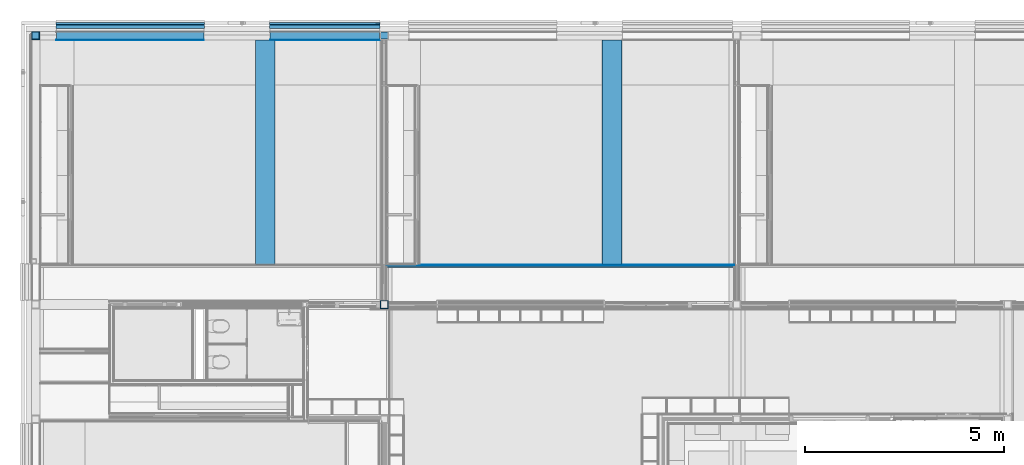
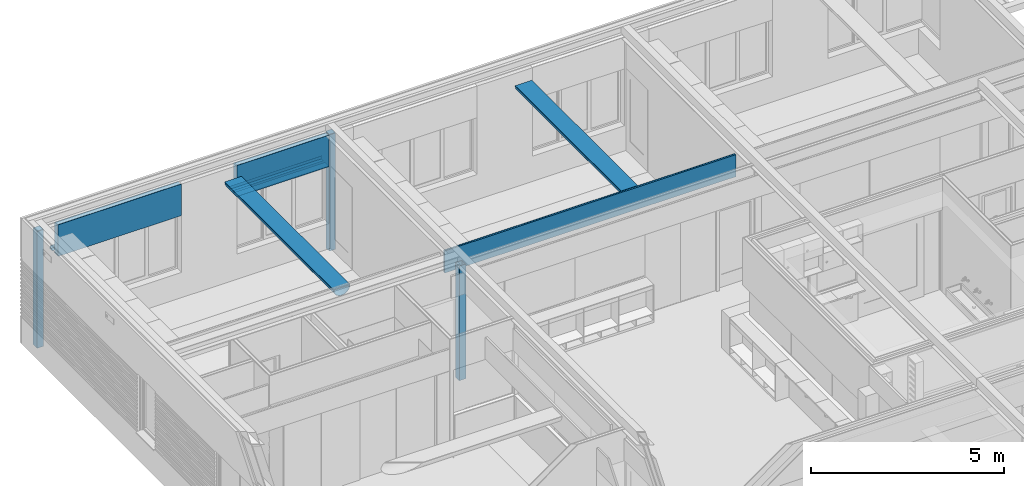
# One storey, part 81 of 137: 20 building element parts, 10 elements without a shape of their own.
"""IFC2X3 building model written with IfcOpenShell, lengths in millimetres."""

from ifc_helpers import new_model, entity, si_unit, converted_unit, derived_unit, money_unit, direction, frame, origin_with_axes, place, context, subcontext, project, spatial, faceted_brep, material, type_object, element, aggregate, save


model = new_model("IFC2X3")

# Units and contexts
model_context = context("Model", 3, precision=0.01, world=origin_with_axes(), true_north=direction((0.0, 1.0)))
body_context = subcontext(model_context, "Body", "Model", "MODEL_VIEW")
ifc_project = project(units=[si_unit("LENGTHUNIT", "METRE", prefix="MILLI"), si_unit("AREAUNIT", "SQUARE_METRE"), si_unit("VOLUMEUNIT", "CUBIC_METRE"), converted_unit("PLANEANGLEUNIT", "DEGREE", entity("IfcPlaneAngleMeasure", 0.0174532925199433), si_unit("PLANEANGLEUNIT", "RADIAN"), dimensions=[0, 0, 0, 0, 0, 0, 0]), money_unit("EUR"), converted_unit("TIMEUNIT", "Year", entity("IfcTimeMeasure", 31556926.0), si_unit("TIMEUNIT", "SECOND"), dimensions=[0, 0, 1, 0, 0, 0, 0]), si_unit("MASSUNIT", "GRAM", prefix="KILO"), si_unit("THERMODYNAMICTEMPERATUREUNIT", "DEGREE_CELSIUS"), si_unit("LUMINOUSINTENSITYUNIT", "LUMEN"), si_unit("ENERGYUNIT", "JOULE", prefix="MEGA"), derived_unit("THERMALCONDUCTANCEUNIT", [(si_unit("POWERUNIT", "WATT"), 1), (si_unit("LENGTHUNIT", "METRE"), -1), (si_unit("THERMODYNAMICTEMPERATUREUNIT", "KELVIN"), -1)]), derived_unit("SPECIFICHEATCAPACITYUNIT", [(si_unit("ENERGYUNIT", "JOULE"), 1), (si_unit("MASSUNIT", "GRAM", prefix="KILO"), -1), (si_unit("THERMODYNAMICTEMPERATUREUNIT", "KELVIN"), -1)]), derived_unit("MASSDENSITYUNIT", [(si_unit("MASSUNIT", "GRAM", prefix="KILO"), 1), (si_unit("VOLUMEUNIT", "CUBIC_METRE"), -1)])], contexts=[model_context])

# Site, building, storey
site_placement = place(None, origin_with_axes())
site = spatial("IfcSite", under=ifc_project, at=site_placement, Name="Site", CompositionType="ELEMENT")
building_placement = place(site_placement, origin_with_axes())
building = spatial("IfcBuilding", under=site, at=building_placement, Name="Naam gebouw", CompositionType="ELEMENT")
storey_placement = place(building_placement, frame((0.0, 0.0, 3960.0), z_axis=(0.0, 0.0, 1.0), x_axis=(1.0, 0.0, 0.0)))
storey = spatial("IfcBuildingStorey", under=building, at=storey_placement, Name="1e verdieping", CompositionType="ELEMENT", Elevation=3960.0)

# Column, building element part
column_type = type_object("IfcColumnType", Name="200X200X10 200 x 200", PredefinedType="COLUMN")
column_1_placement = place(storey_placement, frame((8850.000000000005, 22324.99984707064, -100.0000000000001), z_axis=(0.0, 0.0, 1.0), x_axis=(1.0, 0.0, 0.0)))
column_1 = element("IfcColumn", 1, at=column_1_placement, inside=storey, type_object=column_type, Name="28_Kolom-x", ObjectType="COLUMN")
ifc_material_1 = material(Name="Metaal - Staal C")
building_element_part_1_placement = place(column_1_placement, origin_with_axes())
building_element_part_1 = element("IfcBuildingElementPart", 2, at=building_element_part_1_placement, material=ifc_material_1, Name="Metaal - Staal C", context=body_context, shape_type="Brep", body=[
    faceted_brep([(-99.99999999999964, -100.0000000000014, 0.0), (99.99999999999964, -100.0000000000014, 0.0), (99.99999999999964, -100.0000000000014, 3630.0), (-99.99999999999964, -100.0000000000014, 3630.0), (-99.99999999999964, 100.0000000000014, 0.0), (99.99999999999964, 100.0000000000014, 0.0), (-89.99999999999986, -89.99999999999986, 0.0), (89.99999999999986, -89.99999999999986, 0.0), (89.99999999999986, 89.99999999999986, 0.0), (-89.99999999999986, 89.99999999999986, 0.0), (99.99999999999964, 100.0000000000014, 3630.0), (-99.99999999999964, 100.0000000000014, 3630.0), (-89.99999999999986, -89.99999999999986, 3630.0), (-89.99999999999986, 89.99999999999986, 3630.0), (89.99999999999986, 89.99999999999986, 3630.0), (89.99999999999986, -89.99999999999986, 3630.0)], [[[0, 1, 2, 3]], [[0, 4, 5, 1], [6, 7, 8, 9]], [[1, 5, 10, 2]], [[3, 2, 10, 11], [12, 13, 14, 15]], [[4, 0, 3, 11]], [[5, 4, 11, 10]], [[7, 6, 12, 15]], [[8, 7, 15, 14]], [[9, 8, 14, 13]], [[6, 9, 13, 12]]]),
])
aggregate(column_1, [building_element_part_1])

column_2_placement = place(storey_placement, frame((100.0000000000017, 29075.0, -100.0000000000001), z_axis=(0.0, 0.0, 1.0), x_axis=(1.0, 0.0, 0.0)))
column_2 = element("IfcColumn", 3, at=column_2_placement, inside=storey, type_object=column_type, Name="28_Kolom-x", ObjectType="COLUMN")
building_element_part_2_placement = place(column_2_placement, origin_with_axes())
building_element_part_2 = element("IfcBuildingElementPart", 4, at=building_element_part_2_placement, material=ifc_material_1, Name="Metaal - Staal C", context=body_context, shape_type="Brep", body=[
    faceted_brep([(-100.0, -100.0000000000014, 0.0), (100.0, -100.0000000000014, 0.0), (100.0, -100.0000000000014, 3699.999999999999), (-100.0, -100.0000000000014, 3699.999999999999), (-100.0, 100.0000000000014, 0.0), (100.0, 100.0000000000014, 0.0), (-90.00000000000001, -89.99999999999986, 0.0), (90.00000000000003, -89.99999999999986, 0.0), (90.00000000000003, 89.99999999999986, 0.0), (-90.00000000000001, 89.99999999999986, 0.0), (100.0, 100.0000000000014, 3699.999999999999), (-100.0, 100.0000000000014, 3699.999999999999), (-90.00000000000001, -89.99999999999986, 3699.999999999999), (-90.00000000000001, 89.99999999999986, 3699.999999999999), (90.00000000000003, 89.99999999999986, 3699.999999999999), (90.00000000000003, -89.99999999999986, 3699.999999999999)], [[[0, 1, 2, 3]], [[0, 4, 5, 1], [6, 7, 8, 9]], [[1, 5, 10, 2]], [[3, 2, 10, 11], [12, 13, 14, 15]], [[4, 0, 3, 11]], [[5, 4, 11, 10]], [[7, 6, 12, 15]], [[8, 7, 15, 14]], [[9, 8, 14, 13]], [[6, 9, 13, 12]]]),
])

column_3_placement = place(storey_placement, frame((8850.000000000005, 29075.0, -100.0000000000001), z_axis=(0.0, 0.0, 1.0), x_axis=(1.0, 0.0, 0.0)))
column_3 = element("IfcColumn", 5, at=column_3_placement, inside=storey, type_object=column_type, Name="28_Kolom-x", ObjectType="COLUMN")
ifc_material_2 = material(Name="Beton gewapend C")
building_element_part_3_placement = place(column_3_placement, origin_with_axes())
building_element_part_3 = element("IfcBuildingElementPart", 6, at=building_element_part_3_placement, material=ifc_material_2, Name="Beton gewapend C", context=body_context, shape_type="Brep", body=[
    faceted_brep([(-89.99999999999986, 89.99999999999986, 3683.000002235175), (89.99999999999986, 89.99999999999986, 3683.000002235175), (89.99999999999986, 89.99999999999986, 0.0), (-89.99999999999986, 89.99999999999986, 0.0), (89.99999999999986, -89.99999999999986, 3683.000002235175), (-89.99999999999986, -89.99999999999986, 3683.000002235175), (89.99999999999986, -89.99999999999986, 0.0), (-89.99999999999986, -89.99999999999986, 0.0)], [[[0, 1, 2, 3]], [[4, 1, 0, 5]], [[1, 4, 6, 2]], [[2, 6, 7, 3]], [[5, 0, 3, 7]], [[4, 5, 7, 6]]]),
    faceted_brep([(89.99999999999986, -89.99999999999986, 3695.000002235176), (89.99999999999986, 89.99999999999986, 3695.000002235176), (89.99999999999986, 89.99999999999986, 3699.999999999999), (89.99999999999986, -89.99999999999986, 3699.999999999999), (-89.99999999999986, 89.99999999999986, 3695.000002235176), (-89.99999999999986, -89.99999999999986, 3695.000002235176), (-89.99999999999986, 89.99999999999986, 3699.999999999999), (-89.99999999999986, -89.99999999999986, 3699.999999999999)], [[[0, 1, 2, 3]], [[4, 1, 0, 5]], [[1, 4, 6, 2]], [[2, 6, 7, 3]], [[5, 0, 3, 7]], [[4, 5, 7, 6]]]),
])
aggregate(column_3, [building_element_part_3])

# Building element part
building_element_part_4_placement = place(column_2_placement, origin_with_axes())
building_element_part_4 = element("IfcBuildingElementPart", 7, at=building_element_part_4_placement, material=ifc_material_2, Name="Beton gewapend C", context=body_context, shape_type="Brep", body=[
    faceted_brep([(-90.00000000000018, 89.99999999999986, 3685.000001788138), (89.99999999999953, 89.99999999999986, 3685.000001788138), (89.99999999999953, 89.99999999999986, 0.0), (-90.00000000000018, 89.99999999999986, 0.0), (89.99999999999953, -89.99999999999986, 3685.000001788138), (-90.00000000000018, -89.99999999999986, 3685.000001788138), (89.99999999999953, -89.99999999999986, 0.0), (-90.00000000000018, -89.99999999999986, 0.0)], [[[0, 1, 2, 3]], [[4, 1, 0, 5]], [[1, 4, 6, 2]], [[2, 6, 7, 3]], [[5, 0, 3, 7]], [[4, 5, 7, 6]]]),
    faceted_brep([(89.99999999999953, -89.99999999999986, 3695.000001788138), (89.99999999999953, 89.99999999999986, 3695.000001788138), (89.99999999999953, 89.99999999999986, 3699.999999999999), (89.99999999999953, -89.99999999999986, 3699.999999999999), (-90.00000000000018, 89.99999999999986, 3695.000001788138), (-90.00000000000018, -89.99999999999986, 3695.000001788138), (-90.00000000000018, 89.99999999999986, 3699.999999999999), (-90.00000000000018, -89.99999999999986, 3699.999999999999)], [[[0, 1, 2, 3]], [[4, 1, 0, 5]], [[1, 4, 6, 2]], [[2, 6, 7, 3]], [[5, 0, 3, 7]], [[4, 5, 7, 6]]]),
])

aggregate(column_2, [building_element_part_2, building_element_part_4])

# Beam, building element part
beam_type_1 = type_object("IfcBeamType", Name="41 Latei/geveldrager 158 x 112", PredefinedType="BEAM")
beam_1_placement = place(storey_placement, frame((4334.99999999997, 29355.00002672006, 2610.0), z_axis=(0.0, 0.0, 1.0), x_axis=(0.0, 1.0, 0.0)))
beam_1 = element("IfcBeam", 8, at=beam_1_placement, inside=storey, type_object=beam_type_1, Name="_Regenwaterafvoer-x", ObjectType="BEAM")
building_element_part_5_placement = place(beam_1_placement, origin_with_axes())
building_element_part_5 = element("IfcBuildingElementPart", 9, at=building_element_part_5_placement, material=ifc_material_1, Name="Metaal - Staal C", context=body_context, shape_type="Brep", body=[
    faceted_brep([(5.9603877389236e-08, 3720.0, 6.55651533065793e-07), (5.9603877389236e-08, 3720.0, 99.3417707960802), (5.9603877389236e-08, 0.0, 99.3417707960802), (5.9603877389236e-08, 0.0, 6.55651533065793e-07), (50.00000000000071, 3720.0, 6.55651533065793e-07), (50.00000000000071, 3720.0, -3.000000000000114), (-3.000000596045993, 3720.0, -3.000000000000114), (-3.000000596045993, 3720.0, 6.55651533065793e-07), (-3.000000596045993, 3720.0, 96.99999988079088), (-18.04655007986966, 3720.0, 106.2968498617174), (-16.54654975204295, 3720.0, 108.8949262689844), (-16.54654975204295, 0.0, 108.8949262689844), (-18.04655007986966, 0.0, 106.2968498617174), (-3.000000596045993, 0.0, 96.99999988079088), (-3.000000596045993, 0.0, 6.55651533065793e-07), (-3.000000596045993, 0.0, -3.000000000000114), (50.00000000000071, 0.0, -3.000000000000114), (50.00000000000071, 0.0, 6.55651533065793e-07)], [[[0, 1, 2, 3]], [[0, 4, 5, 6, 7, 8, 9, 10, 1]], [[1, 10, 11, 2]], [[3, 2, 11, 12, 13, 14, 15, 16, 17]], [[4, 0, 3, 17]], [[5, 4, 17, 16]], [[6, 5, 16, 15]], [[7, 6, 15, 14]], [[8, 7, 14, 13]], [[9, 8, 13, 12]], [[10, 9, 12, 11]]]),
])

beam_2_placement = place(storey_placement, frame((5975.000000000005, 29354.99997630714, 2610.0), z_axis=(0.0, 0.0, 1.0), x_axis=(0.001263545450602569, -0.9999992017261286, 0.0)))
beam_2 = element("IfcBeam", 10, at=beam_2_placement, inside=storey, type_object=beam_type_1, Name="_Regenwaterafvoer-x", ObjectType="BEAM")
building_element_part_6_placement = place(beam_2_placement, origin_with_axes())
building_element_part_6 = element("IfcBuildingElementPart", 11, at=building_element_part_6_placement, material=ifc_material_1, Name="Metaal - Staal C", context=body_context, shape_type="Brep", body=[
    faceted_brep([(-49.99999999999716, 2770.00221178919, 6.55651533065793e-07), (-49.99999999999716, 2770.00221178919, -3.000000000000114), (-50.00000000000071, 0.0, -3.000000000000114), (-50.00000000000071, 0.0, 6.55651533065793e-07), (-5.9603877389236e-08, 2770.00221178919, 6.55651533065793e-07), (-5.9603877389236e-08, 2770.00221178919, 99.3417707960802), (16.54654975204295, 2770.00221178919, 108.8949262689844), (18.04655007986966, 2770.002211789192, 106.2968498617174), (3.000000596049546, 2770.00221178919, 96.99999988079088), (3.000000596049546, 2770.00221178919, 6.55651533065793e-07), (3.000000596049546, 2770.00221178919, -3.000000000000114), (3.000000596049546, 0.0, -3.000000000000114), (3.000000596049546, 0.0, 6.55651533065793e-07), (3.000000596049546, 0.0, 96.99999988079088), (18.04655007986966, 0.0, 106.2968498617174), (16.54654975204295, 0.0, 108.8949262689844), (-5.9603877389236e-08, 0.0, 99.3417707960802), (-5.9603877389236e-08, 0.0, 6.55651533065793e-07)], [[[0, 1, 2, 3]], [[0, 4, 5, 6, 7, 8, 9, 10, 1]], [[1, 10, 11, 2]], [[3, 2, 11, 12, 13, 14, 15, 16, 17]], [[4, 0, 3, 17]], [[5, 4, 17, 16]], [[6, 5, 16, 15]], [[7, 6, 15, 14]], [[8, 7, 14, 13]], [[9, 8, 13, 12]], [[10, 9, 12, 11]]]),
])

# Building element part
building_element_part_7_placement = place(beam_1_placement, origin_with_axes())
building_element_part_7 = element("IfcBuildingElementPart", 12, at=building_element_part_7_placement, material=ifc_material_1, Name="Metaal - Staal C", context=body_context, shape_type="Brep", body=[
    faceted_brep([(-3.000000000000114, 3720.0, 0.0), (-108.0000000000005, 3720.0, 0.0), (-108.0000000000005, 0.0, 0.0), (-3.000000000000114, 0.0, 0.0), (-3.000000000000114, 3720.0, -3.000000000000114), (-108.0000000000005, 3720.0, -3.000000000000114), (-108.0000000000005, 0.0, -3.000000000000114), (-3.000000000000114, 0.0, -3.000000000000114)], [[[0, 1, 2, 3]], [[0, 4, 5, 1]], [[1, 5, 6, 2]], [[3, 2, 6, 7]], [[4, 0, 3, 7]], [[5, 4, 7, 6]]]),
])

aggregate(beam_1, [building_element_part_5, building_element_part_7])

building_element_part_8_placement = place(beam_2_placement, origin_with_axes())
building_element_part_8 = element("IfcBuildingElementPart", 13, at=building_element_part_8_placement, material=ifc_material_1, Name="Metaal - Staal C", context=body_context, shape_type="Brep", body=[
    faceted_brep([(3.000000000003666, 2770.00221178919, -3.000000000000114), (108.0000000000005, 2770.00221178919, -3.000000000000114), (108.0000000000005, 0.0, -3.000000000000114), (3.000000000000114, 0.0, -3.000000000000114), (3.000000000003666, 2770.00221178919, 0.0), (108.0000000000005, 2770.00221178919, 0.0), (108.0000000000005, 0.0, 0.0), (3.000000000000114, 0.0, 0.0)], [[[0, 1, 2, 3]], [[0, 4, 5, 1]], [[1, 5, 6, 2]], [[3, 2, 6, 7]], [[4, 0, 3, 7]], [[5, 4, 7, 6]]]),
])

aggregate(beam_2, [building_element_part_6, building_element_part_8])

# Proxy, building element parts
building_element_proxy_type = type_object("IfcBuildingElementProxyType", Name="22 Metal stud 62.5 plafond 63", PredefinedType="NOTDEFINED")
proxy_placement = place(storey_placement, frame((8912.500000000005, 23324.99974115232, 2624.999999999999), z_axis=(0.0, 0.0, 1.0), x_axis=(1.0, 0.0, 0.0)))
proxy = element("IfcBuildingElementProxy", 14, at=proxy_placement, inside=storey, type_object=building_element_proxy_type, Name="_Wand-x")
ifc_material_3 = material(Name="Gipsplaat")
building_element_part_9_placement = place(proxy_placement, origin_with_axes())
building_element_part_9 = element("IfcBuildingElementPart", 15, at=building_element_part_9_placement, material=ifc_material_3, Name="Gipsplaat", context=body_context, shape_type="Brep", body=[
    faceted_brep([(8724.999424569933, -12.49999999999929, 700.0000000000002), (8724.999424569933, 0.0, 700.0000000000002), (0.0, 0.0, 700.0000000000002), (0.0, -12.49999999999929, 700.0000000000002), (8724.999424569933, -12.49999999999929, 0.0), (8724.999424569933, 0.0, 0.0), (0.0, 0.0, 0.0), (0.0, -12.49999999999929, 0.0)], [[[0, 1, 2, 3]], [[0, 4, 5, 1]], [[1, 5, 6, 2]], [[3, 2, 6, 7]], [[4, 0, 3, 7]], [[5, 4, 7, 6]]]),
])
ifc_material_4 = material(Name="ALG - LICHTE SCHEIDINGSWAND")
building_element_part_10_placement = place(proxy_placement, origin_with_axes())
building_element_part_10 = element("IfcBuildingElementPart", 16, at=building_element_part_10_placement, material=ifc_material_4, Name="ALG - LICHTE SCHEIDINGSWAND", context=body_context, shape_type="Brep", body=[
    faceted_brep([(8724.999424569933, -62.5, 700.0000000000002), (8724.999424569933, -12.49999999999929, 700.0000000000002), (0.0, -12.49999999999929, 700.0000000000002), (0.0, -62.5, 700.0000000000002), (8724.999424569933, -62.5, 0.0), (8724.999424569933, -12.49999999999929, 0.0), (0.0, -12.49999999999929, 0.0), (0.0, -62.5, 0.0)], [[[0, 1, 2, 3]], [[0, 4, 5, 1]], [[1, 5, 6, 2]], [[3, 2, 6, 7]], [[4, 0, 3, 7]], [[5, 4, 7, 6]]]),
])
aggregate(proxy, [building_element_part_9, building_element_part_10])

# Beam, building element parts
beam_type_2 = type_object("IfcBeamType", Name="31 HSB boven kozijnen 214 x 1000", PredefinedType="BEAM")
beam_3_placement = place(storey_placement, frame((625.0000000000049, 28961.0, 2600.000000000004), z_axis=(0.0, 0.0, 1.0), x_axis=(0.0, -1.0, 0.0)))
beam_3 = element("IfcBeam", 17, at=beam_3_placement, inside=storey, type_object=beam_type_2, Name="28_Balk-x", ObjectType="BEAM")
building_element_part_11_placement = place(beam_3_placement, origin_with_axes())
building_element_part_11 = element("IfcBuildingElementPart", 18, at=building_element_part_11_placement, material=ifc_material_3, Name="Gipsplaat", context=body_context, shape_type="Brep", body=[
    faceted_brep([(-11.99999661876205, 3700.0, 0.0), (9.341707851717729e-06, 3700.0, 0.0), (9.341711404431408e-06, 0.0, 0.0), (-11.99999661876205, 0.0, 0.0), (-11.99999661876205, 3700.0, 999.9999999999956), (9.341707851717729e-06, 3700.0, 999.9999999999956), (9.341707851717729e-06, 0.0, 999.9999999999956), (-11.99999661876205, 0.0, 999.9999999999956)], [[[0, 1, 2, 3]], [[0, 4, 5, 1]], [[1, 5, 6, 2]], [[3, 2, 6, 7]], [[4, 0, 3, 7]], [[5, 4, 7, 6]]]),
])
building_element_part_12_placement = place(beam_3_placement, origin_with_axes())
building_element_part_12 = element("IfcBuildingElementPart", 19, at=building_element_part_12_placement, material=ifc_material_3, Name="Gipsplaat", context=body_context, shape_type="Brep", body=[
    faceted_brep([(-214.0000025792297, 3700.0, 12.00000596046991), (-214.0000025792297, 3700.0, 0.0), (-214.0000025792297, 0.0, 0.0), (-214.0000025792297, 0.0, 12.00000596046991), (-11.99999661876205, 3700.0, 12.00000596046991), (-11.99999661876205, 3700.0, 0.0), (-11.99999661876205, 0.0, 0.0), (-11.99999661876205, 0.0, 12.00000596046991)], [[[0, 1, 2, 3]], [[0, 4, 5, 1]], [[1, 5, 6, 2]], [[3, 2, 6, 7]], [[4, 0, 3, 7]], [[5, 4, 7, 6]]]),
])
ifc_material_5 = material(Name="ALG - ISOLATIE")
building_element_part_13_placement = place(beam_3_placement, origin_with_axes())
building_element_part_13 = element("IfcBuildingElementPart", 20, at=building_element_part_13_placement, material=ifc_material_5, Name="ALG - ISOLATIE", context=body_context, shape_type="Brep", body=[
    faceted_brep([(-12.00000000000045, 3700.0, 49.99999999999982), (-12.00000000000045, 3700.0, 961.9999999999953), (-12.00000000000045, 0.0, 961.9999999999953), (-12.00000000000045, 0.0, 49.99999999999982), (-196.0000000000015, 3700.0, 49.99999999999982), (-196.0000000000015, 3700.0, 961.9999999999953), (-196.0000000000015, 0.0, 961.9999999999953), (-195.999999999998, 0.0, 49.99999999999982)], [[[0, 1, 2, 3]], [[0, 4, 5, 1]], [[1, 5, 6, 2]], [[3, 2, 6, 7]], [[4, 0, 3, 7]], [[5, 4, 7, 6]]]),
])
aggregate(beam_3, [building_element_part_11, building_element_part_12, building_element_part_13])

beam_4_placement = place(storey_placement, frame((5985.000000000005, 28961.0, 2600.000000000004), z_axis=(0.0, 0.0, 1.0), x_axis=(0.0, -1.0, 0.0)))
beam_4 = element("IfcBeam", 21, at=beam_4_placement, inside=storey, type_object=beam_type_2, Name="28_Balk-x", ObjectType="BEAM")
building_element_part_14_placement = place(beam_4_placement, origin_with_axes())
building_element_part_14 = element("IfcBuildingElementPart", 22, at=building_element_part_14_placement, material=ifc_material_3, Name="Gipsplaat", context=body_context, shape_type="Brep", body=[
    faceted_brep([(-214.0000025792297, 2750.000000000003, 12.00000596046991), (-214.0000025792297, 2750.000000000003, 0.0), (-214.0000025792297, 0.0, 0.0), (-214.0000025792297, 0.0, 12.00000596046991), (-11.99999661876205, 2750.000000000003, 12.00000596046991), (-11.99999661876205, 2750.000000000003, 0.0), (-11.99999661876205, 0.0, 0.0), (-11.99999661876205, 0.0, 12.00000596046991)], [[[0, 1, 2, 3]], [[0, 4, 5, 1]], [[1, 5, 6, 2]], [[3, 2, 6, 7]], [[4, 0, 3, 7]], [[5, 4, 7, 6]]]),
])
building_element_part_15_placement = place(beam_4_placement, origin_with_axes())
building_element_part_15 = element("IfcBuildingElementPart", 23, at=building_element_part_15_placement, material=ifc_material_5, Name="ALG - ISOLATIE", context=body_context, shape_type="Brep", body=[
    faceted_brep([(-12.00000000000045, 2750.000000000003, 49.99999999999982), (-12.00000000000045, 2750.000000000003, 961.9999999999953), (-12.00000000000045, 0.0, 961.9999999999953), (-12.00000000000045, 0.0, 49.99999999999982), (-196.0000000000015, 2750.000000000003, 49.99999999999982), (-196.0000000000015, 2750.000000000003, 961.9999999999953), (-196.0000000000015, 0.0, 961.9999999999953), (-195.999999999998, 0.0, 49.99999999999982)], [[[0, 1, 2, 3]], [[0, 4, 5, 1]], [[1, 5, 6, 2]], [[3, 2, 6, 7]], [[4, 0, 3, 7]], [[5, 4, 7, 6]]]),
])
building_element_part_16_placement = place(beam_4_placement, origin_with_axes())
building_element_part_16 = element("IfcBuildingElementPart", 24, at=building_element_part_16_placement, material=ifc_material_3, Name="Gipsplaat", context=body_context, shape_type="Brep", body=[
    faceted_brep([(-11.99999661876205, 2750.000000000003, 0.0), (9.341707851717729e-06, 2750.000000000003, 0.0), (9.341711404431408e-06, 0.0, 0.0), (-11.99999661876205, 0.0, 0.0), (-11.99999661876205, 2750.000000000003, 999.9999999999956), (9.341707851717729e-06, 2750.000000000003, 999.9999999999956), (9.341707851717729e-06, 0.0, 999.9999999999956), (-11.99999661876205, 0.0, 999.9999999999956)], [[[0, 1, 2, 3]], [[0, 4, 5, 1]], [[1, 5, 6, 2]], [[3, 2, 6, 7]], [[4, 0, 3, 7]], [[5, 4, 7, 6]]]),
])
aggregate(beam_4, [building_element_part_14, building_element_part_15, building_element_part_16])

beam_type_3 = type_object("IfcBeamType", Name="Luchtzakken 500mm 500 x 265", PredefinedType="BEAM")
beam_5_placement = place(storey_placement, frame((14562.50000000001, 28961.00000000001, 3200.0), z_axis=(0.0, 0.0, 1.0), x_axis=(-1.0, 0.0, 0.0)))
beam_5 = element("IfcBeam", 25, at=beam_5_placement, inside=storey, type_object=beam_type_3, Name="_Regenwaterafvoer-x", ObjectType="BEAM")
ifc_material_6 = material(Name="ALG - ALGEMEEN")
building_element_part_17_placement = place(beam_5_placement, origin_with_axes())
building_element_part_17 = element("IfcBuildingElementPart", 26, at=building_element_part_17_placement, material=ifc_material_6, Name="ALG - ALGEMEEN", context=body_context, shape_type="Brep", body=[
    faceted_brep([(250.0, 5636.000152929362, 0.0), (250.0, 5636.000152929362, 14.99999999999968), (250.0, 0.0, 14.99999999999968), (250.0, 0.0, 0.0), (240.0000000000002, 5636.000152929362, 0.0), (-240.0000000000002, 5636.000152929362, 0.0), (-250.0, 5636.000152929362, 0.0), (-250.0, 5636.000152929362, 14.99999999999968), (-250.0, 0.0, 14.99999999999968), (-250.0, 0.0, 0.0), (-240.0000000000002, 0.0, 0.0), (240.0000000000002, 0.0, 0.0)], [[[0, 1, 2, 3]], [[0, 4, 5, 6, 7, 1]], [[1, 7, 8, 2]], [[3, 2, 8, 9, 10, 11]], [[4, 0, 3, 11]], [[5, 4, 11, 10]], [[6, 5, 10, 9]], [[7, 6, 9, 8]]]),
])
building_element_part_18_placement = place(beam_5_placement, origin_with_axes())
building_element_part_18 = element("IfcBuildingElementPart", 27, at=building_element_part_18_placement, material=ifc_material_6, Name="ALG - ALGEMEEN", context=body_context, shape_type="Brep", body=[
    faceted_brep([(-250.0, 5636.000152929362, 0.0), (-246.2019382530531, 5636.000152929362, -43.41204441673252), (-246.2019382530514, 0.0, -43.41204441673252), (-250.0, 0.0, 0.0), (-240.0000000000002, 5636.000152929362, 0.0), (-236.3538607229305, 5636.000152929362, -41.67556264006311), (-225.5262289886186, 5636.000152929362, -82.08483439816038), (-207.8460969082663, 5636.000152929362, -120.0000000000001), (-183.8506663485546, 5636.000152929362, -154.2690263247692), (-154.269026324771, 5636.000152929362, -183.8506663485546), (-120.000000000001, 5636.000152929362, -207.8460969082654), (-82.08483439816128, 5636.000152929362, -225.5262289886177), (-41.675562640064, 5636.000152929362, -236.3538607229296), (0.0, 5636.000152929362, -240.0000000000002), (41.67556264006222, 5636.000152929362, -236.3538607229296), (82.0848343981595, 5636.000152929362, -225.5262289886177), (119.9999999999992, 5636.000152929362, -207.8460969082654), (154.2690263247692, 5636.000152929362, -183.8506663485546), (183.8506663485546, 5636.000152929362, -154.2690263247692), (207.8460969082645, 5636.000152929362, -120.0000000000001), (225.5262289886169, 5636.000152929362, -82.08483439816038), (236.3538607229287, 5636.000152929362, -41.67556264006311), (240.0000000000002, 5636.000152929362, 0.0), (250.0, 5636.000152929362, 0.0), (246.2019382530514, 5636.000152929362, -43.41204441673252), (234.9231551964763, 5636.000152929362, -85.50503583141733), (216.5063509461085, 5636.000152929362, -125.0), (191.5111107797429, 5636.000152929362, -160.6969024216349), (160.696902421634, 5636.000152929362, -191.5111107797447), (125.0, 5636.000152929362, -216.5063509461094), (85.50503583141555, 5636.000152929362, -234.9231551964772), (43.41204441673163, 5636.000152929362, -246.2019382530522), (0.0, 5636.000152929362, -250.0), (-43.41204441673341, 5636.000152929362, -246.2019382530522), (-85.50503583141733, 5636.000152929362, -234.9231551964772), (-125.0, 5636.000152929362, -216.5063509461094), (-160.6969024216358, 5636.000152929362, -191.5111107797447), (-191.5111107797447, 5636.000152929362, -160.6969024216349), (-216.5063509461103, 5636.000152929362, -125.0), (-234.9231551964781, 5636.000152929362, -85.50503583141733), (-234.9231551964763, 0.0, -85.50503583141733), (-216.5063509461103, 0.0, -125.0), (-191.5111107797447, 0.0, -160.6969024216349), (-160.696902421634, 0.0, -191.5111107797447), (-125.0, 0.0, -216.5063509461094), (-85.50503583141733, 0.0, -234.9231551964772), (-43.41204441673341, 0.0, -246.2019382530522), (0.0, 0.0, -250.0), (43.41204441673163, 0.0, -246.2019382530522), (85.50503583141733, 0.0, -234.9231551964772), (125.0, 0.0, -216.5063509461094), (160.696902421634, 0.0, -191.5111107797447), (191.5111107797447, 0.0, -160.6969024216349), (216.5063509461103, 0.0, -125.0), (234.9231551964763, 0.0, -85.50503583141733), (246.2019382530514, 0.0, -43.41204441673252), (250.0, 0.0, 0.0), (240.0000000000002, 0.0, 0.0), (236.3538607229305, 0.0, -41.67556264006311), (225.5262289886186, 0.0, -82.08483439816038), (207.8460969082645, 0.0, -120.0000000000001), (183.8506663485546, 0.0, -154.2690263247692), (154.2690263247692, 0.0, -183.8506663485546), (119.9999999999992, 0.0, -207.8460969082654), (82.08483439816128, 0.0, -225.5262289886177), (41.675562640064, 0.0, -236.3538607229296), (0.0, 0.0, -240.0000000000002), (-41.675562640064, 0.0, -236.3538607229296), (-82.08483439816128, 0.0, -225.5262289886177), (-119.9999999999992, 0.0, -207.8460969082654), (-154.2690263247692, 0.0, -183.8506663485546), (-183.8506663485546, 0.0, -154.2690263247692), (-207.8460969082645, 0.0, -120.0000000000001), (-225.5262289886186, 0.0, -82.08483439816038), (-236.3538607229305, 0.0, -41.67556264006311), (-240.0000000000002, 0.0, 0.0)], [[[0, 1, 2, 3]], [[0, 4, 5, 6, 7, 8, 9, 10, 11, 12, 13, 14, 15, 16, 17, 18, 19, 20, 21, 22, 23, 24, 25, 26, 27, 28, 29, 30, 31, 32, 33, 34, 35, 36, 37, 38, 39, 1]], [[1, 39, 40, 2]], [[3, 2, 40, 41, 42, 43, 44, 45, 46, 47, 48, 49, 50, 51, 52, 53, 54, 55, 56, 57, 58, 59, 60, 61, 62, 63, 64, 65, 66, 67, 68, 69, 70, 71, 72, 73, 74, 75]], [[4, 0, 3, 75]], [[5, 4, 75, 74]], [[6, 5, 74, 73]], [[7, 6, 73, 72]], [[8, 7, 72, 71]], [[9, 8, 71, 70]], [[10, 9, 70, 69]], [[11, 10, 69, 68]], [[12, 11, 68, 67]], [[13, 12, 67, 66]], [[14, 13, 66, 65]], [[15, 14, 65, 64]], [[16, 15, 64, 63]], [[17, 16, 63, 62]], [[18, 17, 62, 61]], [[19, 18, 61, 60]], [[20, 19, 60, 59]], [[21, 20, 59, 58]], [[22, 21, 58, 57]], [[23, 22, 57, 56]], [[24, 23, 56, 55]], [[25, 24, 55, 54]], [[26, 25, 54, 53]], [[27, 26, 53, 52]], [[28, 27, 52, 51]], [[29, 28, 51, 50]], [[30, 29, 50, 49]], [[31, 30, 49, 48]], [[32, 31, 48, 47]], [[33, 32, 47, 46]], [[34, 33, 46, 45]], [[35, 34, 45, 44]], [[36, 35, 44, 43]], [[37, 36, 43, 42]], [[38, 37, 42, 41]], [[39, 38, 41, 40]]]),
])
aggregate(beam_5, [building_element_part_17, building_element_part_18])

beam_6_placement = place(storey_placement, frame((5864.000000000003, 28961.00000000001, 3200.0), z_axis=(0.0, 0.0, 1.0), x_axis=(-1.0, 0.0, 0.0)))
beam_6 = element("IfcBeam", 28, at=beam_6_placement, inside=storey, type_object=beam_type_3, Name="_Regenwaterafvoer-x", ObjectType="BEAM")
building_element_part_19_placement = place(beam_6_placement, origin_with_axes())
building_element_part_19 = element("IfcBuildingElementPart", 29, at=building_element_part_19_placement, material=ifc_material_6, Name="ALG - ALGEMEEN", context=body_context, shape_type="Brep", body=[
    faceted_brep([(250.0, 5636.000152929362, 0.0), (250.0, 5636.000152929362, 14.99999999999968), (250.0, 0.0, 14.99999999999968), (250.0, 0.0, 0.0), (240.0000000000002, 5636.000152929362, 0.0), (-240.0000000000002, 5636.000152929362, 0.0), (-250.0, 5636.000152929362, 0.0), (-250.0, 5636.000152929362, 14.99999999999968), (-250.0, 0.0, 14.99999999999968), (-250.0, 0.0, 0.0), (-240.0000000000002, 0.0, 0.0), (240.0000000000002, 0.0, 0.0)], [[[0, 1, 2, 3]], [[0, 4, 5, 6, 7, 1]], [[1, 7, 8, 2]], [[3, 2, 8, 9, 10, 11]], [[4, 0, 3, 11]], [[5, 4, 11, 10]], [[6, 5, 10, 9]], [[7, 6, 9, 8]]]),
])
building_element_part_20_placement = place(beam_6_placement, origin_with_axes())
building_element_part_20 = element("IfcBuildingElementPart", 30, at=building_element_part_20_placement, material=ifc_material_6, Name="ALG - ALGEMEEN", context=body_context, shape_type="Brep", body=[
    faceted_brep([(-250.0, 5636.000152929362, 0.0), (-246.2019382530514, 5636.000152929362, -43.41204441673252), (-246.2019382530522, 0.0, -43.41204441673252), (-250.0, 0.0, 0.0), (-240.0000000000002, 5636.000152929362, 0.0), (-236.3538607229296, 5636.000152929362, -41.67556264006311), (-225.5262289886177, 5636.000152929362, -82.08483439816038), (-207.8460969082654, 5636.000152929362, -120.0000000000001), (-183.8506663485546, 5636.000152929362, -154.2690263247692), (-154.2690263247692, 5636.000152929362, -183.8506663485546), (-120.0000000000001, 5636.000152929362, -207.8460969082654), (-82.08483439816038, 5636.000152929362, -225.5262289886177), (-41.67556264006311, 5636.000152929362, -236.3538607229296), (0.0, 5636.000152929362, -240.0000000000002), (41.67556264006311, 5636.000152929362, -236.3538607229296), (82.08483439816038, 5636.000152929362, -225.5262289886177), (120.0000000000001, 5636.000152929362, -207.8460969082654), (154.2690263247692, 5636.000152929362, -183.8506663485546), (183.8506663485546, 5636.000152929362, -154.2690263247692), (207.8460969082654, 5636.000152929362, -120.0000000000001), (225.5262289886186, 5636.000152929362, -82.08483439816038), (236.3538607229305, 5636.000152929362, -41.67556264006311), (240.0000000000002, 5636.000152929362, 0.0), (250.0, 5636.000152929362, 0.0), (246.2019382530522, 5636.000152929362, -43.41204441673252), (234.9231551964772, 5636.000152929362, -85.50503583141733), (216.5063509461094, 5636.000152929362, -125.0), (191.5111107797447, 5636.000152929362, -160.6969024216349), (160.6969024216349, 5636.000152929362, -191.5111107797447), (125.0, 5636.000152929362, -216.5063509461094), (85.50503583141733, 5636.000152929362, -234.9231551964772), (43.41204441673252, 5636.000152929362, -246.2019382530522), (0.0, 5636.000152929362, -250.0), (-43.41204441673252, 5636.000152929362, -246.2019382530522), (-85.50503583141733, 5636.000152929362, -234.9231551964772), (-125.0, 5636.000152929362, -216.5063509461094), (-160.6969024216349, 5636.000152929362, -191.5111107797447), (-191.5111107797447, 5636.000152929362, -160.6969024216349), (-216.5063509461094, 5636.000152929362, -125.0), (-234.9231551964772, 5636.000152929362, -85.50503583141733), (-234.9231551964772, 0.0, -85.50503583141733), (-216.5063509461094, 0.0, -125.0), (-191.5111107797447, 0.0, -160.6969024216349), (-160.6969024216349, 0.0, -191.5111107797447), (-125.0, 0.0, -216.5063509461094), (-85.50503583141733, 0.0, -234.9231551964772), (-43.41204441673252, 0.0, -246.2019382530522), (0.0, 0.0, -250.0), (43.41204441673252, 0.0, -246.2019382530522), (85.50503583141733, 0.0, -234.9231551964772), (125.0, 0.0, -216.5063509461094), (160.6969024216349, 0.0, -191.5111107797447), (191.5111107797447, 0.0, -160.6969024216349), (216.5063509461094, 0.0, -125.0), (234.9231551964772, 0.0, -85.50503583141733), (246.2019382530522, 0.0, -43.41204441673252), (250.0, 0.0, 0.0), (240.0000000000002, 0.0, 0.0), (236.3538607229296, 0.0, -41.67556264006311), (225.5262289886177, 0.0, -82.08483439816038), (207.8460969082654, 0.0, -120.0000000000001), (183.8506663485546, 0.0, -154.2690263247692), (154.2690263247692, 0.0, -183.8506663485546), (120.0000000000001, 0.0, -207.8460969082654), (82.08483439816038, 0.0, -225.5262289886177), (41.67556264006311, 0.0, -236.3538607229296), (0.0, 0.0, -240.0000000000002), (-41.67556264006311, 0.0, -236.3538607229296), (-82.08483439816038, 0.0, -225.5262289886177), (-120.0000000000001, 0.0, -207.8460969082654), (-154.2690263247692, 0.0, -183.8506663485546), (-183.8506663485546, 0.0, -154.2690263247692), (-207.8460969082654, 0.0, -120.0000000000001), (-225.5262289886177, 0.0, -82.08483439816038), (-236.3538607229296, 0.0, -41.67556264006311), (-240.0000000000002, 0.0, 0.0)], [[[0, 1, 2, 3]], [[0, 4, 5, 6, 7, 8, 9, 10, 11, 12, 13, 14, 15, 16, 17, 18, 19, 20, 21, 22, 23, 24, 25, 26, 27, 28, 29, 30, 31, 32, 33, 34, 35, 36, 37, 38, 39, 1]], [[1, 39, 40, 2]], [[3, 2, 40, 41, 42, 43, 44, 45, 46, 47, 48, 49, 50, 51, 52, 53, 54, 55, 56, 57, 58, 59, 60, 61, 62, 63, 64, 65, 66, 67, 68, 69, 70, 71, 72, 73, 74, 75]], [[4, 0, 3, 75]], [[5, 4, 75, 74]], [[6, 5, 74, 73]], [[7, 6, 73, 72]], [[8, 7, 72, 71]], [[9, 8, 71, 70]], [[10, 9, 70, 69]], [[11, 10, 69, 68]], [[12, 11, 68, 67]], [[13, 12, 67, 66]], [[14, 13, 66, 65]], [[15, 14, 65, 64]], [[16, 15, 64, 63]], [[17, 16, 63, 62]], [[18, 17, 62, 61]], [[19, 18, 61, 60]], [[20, 19, 60, 59]], [[21, 20, 59, 58]], [[22, 21, 58, 57]], [[23, 22, 57, 56]], [[24, 23, 56, 55]], [[25, 24, 55, 54]], [[26, 25, 54, 53]], [[27, 26, 53, 52]], [[28, 27, 52, 51]], [[29, 28, 51, 50]], [[30, 29, 50, 49]], [[31, 30, 49, 48]], [[32, 31, 48, 47]], [[33, 32, 47, 46]], [[34, 33, 46, 45]], [[35, 34, 45, 44]], [[36, 35, 44, 43]], [[37, 36, 43, 42]], [[38, 37, 42, 41]], [[39, 38, 41, 40]]]),
])
aggregate(beam_6, [building_element_part_19, building_element_part_20])

save(model, "model.ifc")
